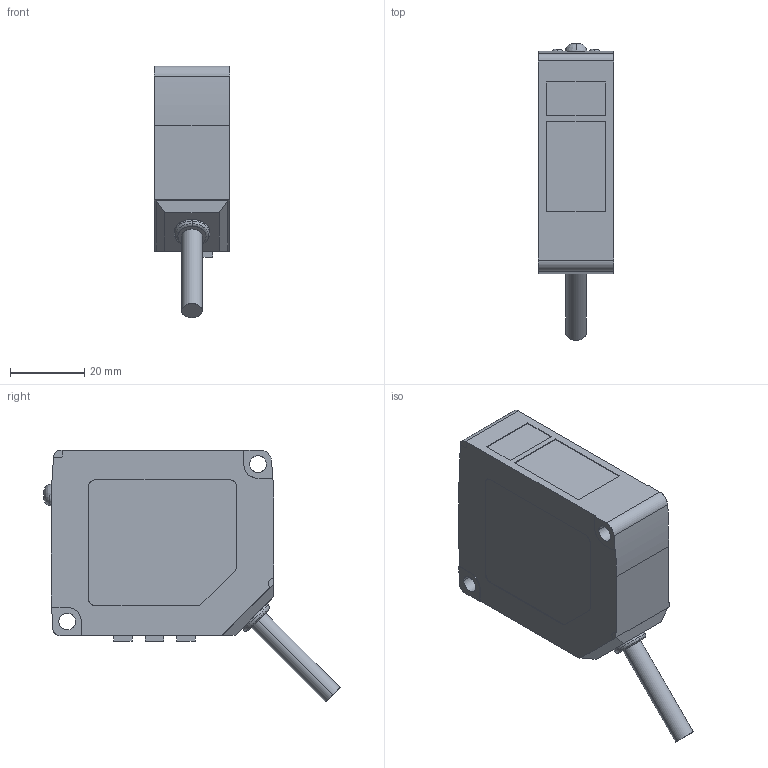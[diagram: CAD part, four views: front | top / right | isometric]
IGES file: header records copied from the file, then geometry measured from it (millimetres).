
Global section: file name: CD3_Cable.igs; native system: OneSpace Designer 3D IGES; preprocessor: 11.60D  09-Mar-2003; date: 20070828.130139; units: millimetre
Bounding box: 20.4 x 79.85 x 67.85 mm (x, y, z)
Surface area: 11307.7 mm2 (no closed solid volume)
Topology: 0 solids, 0 shells, 116 faces, 1022 edges, 1022 vertices
Faces by surface type: bspline 106, revolution 10
